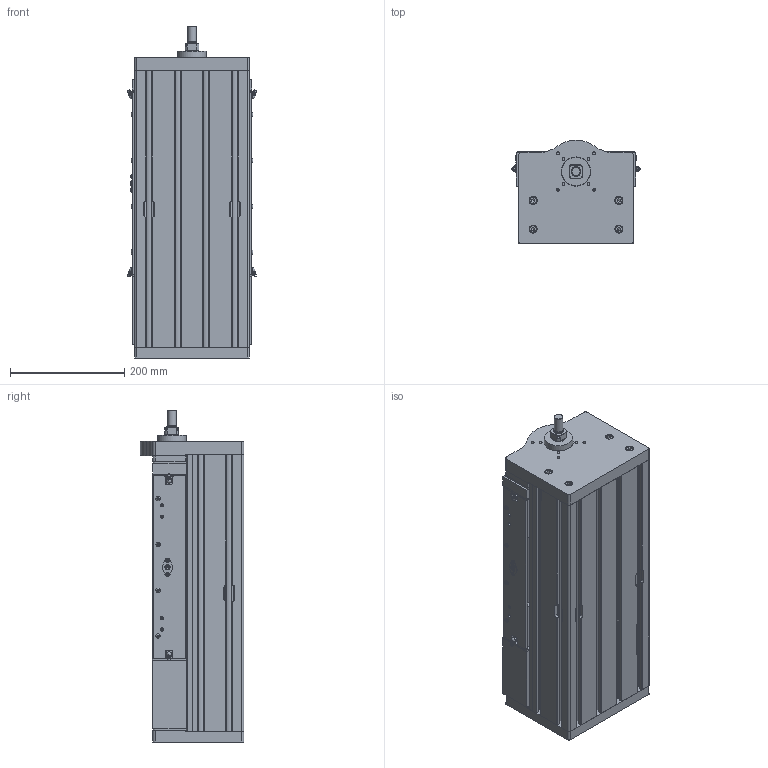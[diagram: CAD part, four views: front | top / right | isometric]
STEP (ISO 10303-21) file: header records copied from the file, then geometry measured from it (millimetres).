
FILE_DESCRIPTION(/* description */ ('Asse VU-K200LE-25H-25-S'),/* implementation_level */ '2;1');
FILE_NAME(/* name */ 'VU-K200LE-25H-25-S-CLIENTE.stp',/* time_stamp */ '2025-02-06T09:32:57+01:00',/* author */ ('davide.cavedon'),/* organization */ (''),/* preprocessor_version */ 'ST-DEVELOPER v20',/* originating_system */ 'Autodesk Inventor 2024',/* authorisation */ '');
FILE_SCHEMA (('CONFIG_CONTROL_DESIGN'));
Products named in the file (5): VU-K200LE-25H-25-S-CLIENTE; C_VU-K200LE-25H-25-S-CLIENTE-001; C_VU-K200SE-25H-25-N-CLIENTE-004; C_VU-K200SE-25H-25-N-CLIENTE-003; C_VU-K200LE-25H-25-N-CLIENTE-002
Assembly tree (4 placements, depth 2):
  VU-K200LE-25H-25-S-CLIENTE
    C_VU-K200LE-25H-25-S-CLIENTE-001
    C_VU-K200SE-25H-25-N-CLIENTE-004
    C_VU-K200SE-25H-25-N-CLIENTE-003
    C_VU-K200LE-25H-25-N-CLIENTE-002
Bounding box: 224.02 x 180.5 x 580 mm (x, y, z)
Volume: 14758959.7 mm3; surface area: 1383548.2 mm2
Topology: 10 solids, 99 shells, 2812 faces, 7342 edges, 4796 vertices
Faces by surface type: plane 1663, cylinder 688, cone 247, torus 104, bspline 104, sphere 6
Full cylindrical faces by diameter (mm): 0.5 x4, 1 x8, 2 x5, 2.459 x2, 2.5 x2, 3 x10, 3.242 x32, 3.5 x2, 4 x8, 4.134 x8, 4.25 x2, 4.3 x2, 4.5 x11, 4.917 x24, 4.95 x2, 5 x14, 5.15 x2, 5.5 x8, 5.7 x2, 5.85 x2, 6 x40, 6.6 x24, 6.647 x28, 6.9 x4, 7 x6, 7.3 x8, 7.6 x10, 7.847 x4, 8 x10, 8.15 x2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
Entity records: 99031 total; most frequent: CARTESIAN_POINT 28041, ORIENTED_EDGE 14364, DIRECTION 14070, EDGE_CURVE 7240, VERTEX_POINT 4796, AXIS2_PLACEMENT_3D 4777, LINE 4516, VECTOR 4516
